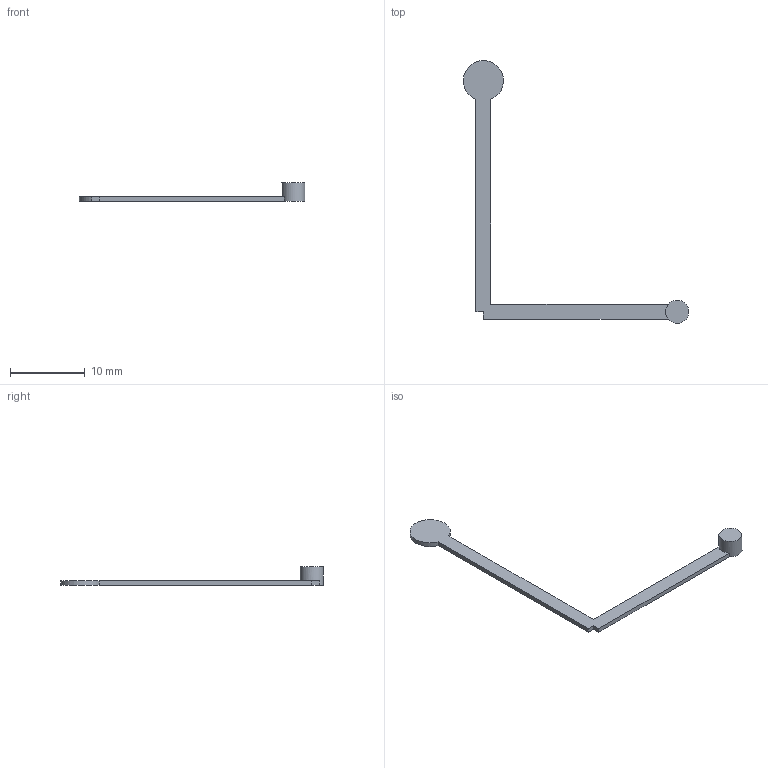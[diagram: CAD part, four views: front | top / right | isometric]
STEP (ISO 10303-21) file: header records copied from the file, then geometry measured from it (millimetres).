
FILE_DESCRIPTION(('Open CASCADE Model'),'2;1');
FILE_NAME('Open CASCADE Shape Model','2026-09-04T20:58:23',('Author'),( 'Open CASCADE'),'Open CASCADE STEP processor 7.7','Open CASCADE 7.7' ,'Unknown');
FILE_SCHEMA(('AUTOMOTIVE_DESIGN { 1 0 10303 214 1 1 1 1 }'));
Length unit declared in the file: millimetre
Products named in the file (1): Open CASCADE STEP translator 7.7 25
Bounding box: 30.25 x 35.25 x 2.5 mm (x, y, z)
Volume: 95.5 mm3; surface area: 366.6 mm2
Topology: 1 solids, 1 shells, 11 faces, 27 edges, 18 vertices
Faces by surface type: plane 9, cylinder 2
Full cylindrical faces by diameter (mm): 3.1 x1
Entity records: 691 total; most frequent: CARTESIAN_POINT 117, DIRECTION 110, LINE 69, VECTOR 69, ORIENTED_EDGE 54, PCURVE 54, DEFINITIONAL_REPRESENTATION 54, EDGE_CURVE 27
